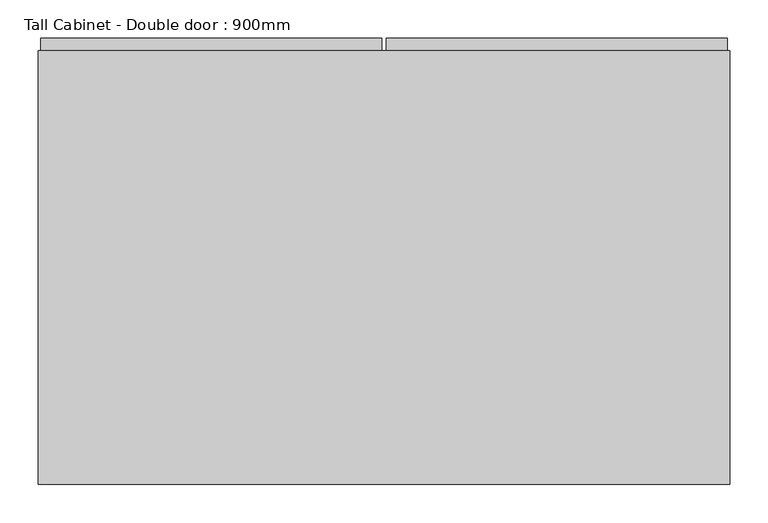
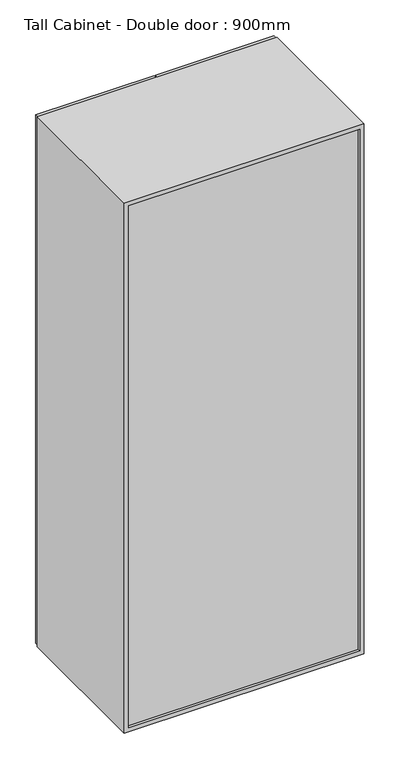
"""IFC4 building model written with IfcOpenShell, lengths in millimetres: furniture geometry, Tall Cabinet - Double door : 900mm."""

from ifc_helpers import new_model, si_unit, frame, origin, place, context, project, spatial, polyline, outline, extrude, source, transform, mapped, element, save


def tall_cabinet_double_door_900mm_a5cfdbaf(model_context):
    return source(origin(), model_context, "Body", "SweptSolid", [
        extrude(outline(polyline([(47.7003264, 581.0), (491.7003264, 581.0), (491.7003264, 565.0), (47.7003264, 565.0), (47.7003264, 581.0)])), frame((0.0, 0.0, 103.0), z_axis=(0.0, 0.0, 1.0), x_axis=(1.0, 0.0, 0.0)), (0.0, 0.0, 1.0), 2094.0),
        extrude(outline(polyline([(41.7003264, 581.0), (41.7003264, 565.0), (-402.2996736, 565.0), (-402.2996736, 581.0), (41.7003264, 581.0)])), frame((0.0, 0.0, 103.0), z_axis=(0.0, 0.0, 1.0), x_axis=(1.0, 0.0, 0.0)), (0.0, 0.0, 1.0), 2094.0),
        extrude(outline(polyline([(478.7003264, 10.0), (-389.2996736, 10.0), (-389.2996736, 16.0), (478.7003264, 16.0), (478.7003264, 10.0)])), frame((0.0, 0.0, 116.0), z_axis=(0.0, 0.0, 1.0), x_axis=(1.0, 0.0, 0.0)), (0.0, 0.0, 1.0), 2068.0),
        extrude(outline(polyline([(2200.0, 494.7003264), (2200.0, -405.2996736), (100.0, -405.2996736), (100.0, 494.7003264), (2200.0, 494.7003264)]), holes=[polyline([(2184.0, 478.7003264), (116.0, 478.7003264), (116.0, -389.2996736), (2184.0, -389.2996736), (2184.0, 478.7003264)])]), frame((0.0, 0.0, 0.0), z_axis=(0.0, 1.0, 0.0), x_axis=(0.0, 0.0, 1.0)), (0.0, 0.0, 1.0), 565.0),
    ])


if __name__ == "__main__":
    model = new_model("IFC4")
    model_context = context("Model", 3, world=origin())
    ifc_project = project(units=[si_unit("LENGTHUNIT", "METRE", prefix="MILLI")], contexts=[model_context])
    site = spatial("IfcSite", under=ifc_project)
    building = spatial("IfcBuilding", under=site)
    placement = place(None, origin())
    tall_cabinet_double_door_900mm_shape = tall_cabinet_double_door_900mm_a5cfdbaf(model_context)
    element("IfcFurniture", 1, ObjectType="Tall Cabinet - Double door : 900mm", at=placement, inside=building, context=model_context, shape_type="MappedRepresentation", body=[
        mapped(tall_cabinet_double_door_900mm_shape, transform((0.0, 0.0, 0.0), x_axis=(1.0, 0.0, 0.0), y_axis=(0.0, 1.0, 0.0), z_axis=(0.0, 0.0, 1.0))),
    ])
    save(model, "model.ifc")
